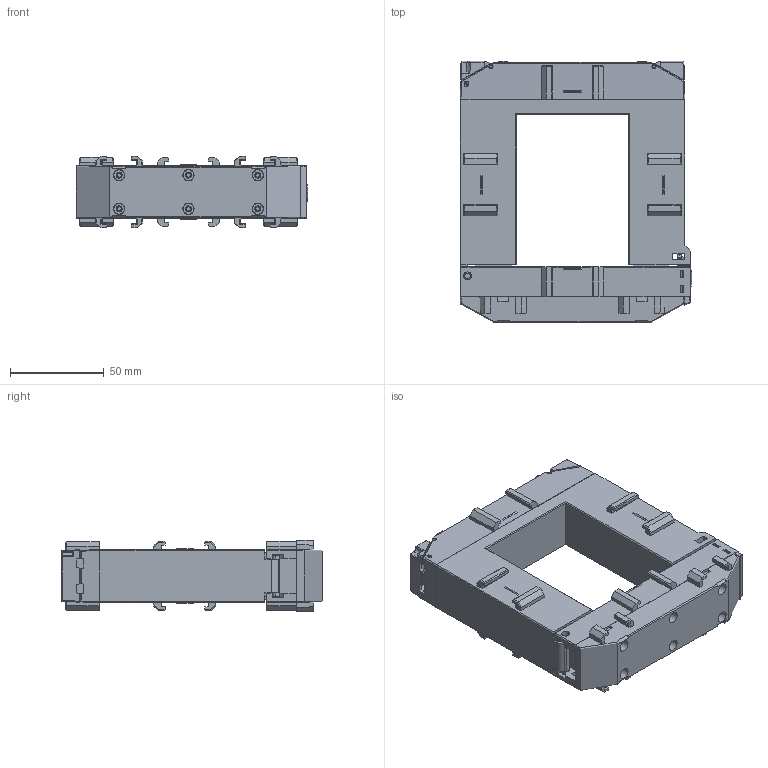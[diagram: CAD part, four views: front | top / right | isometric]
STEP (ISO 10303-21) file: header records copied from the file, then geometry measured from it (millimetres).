
FILE_DESCRIPTION (( 'STEP AP214' ), '1' );
FILE_NAME ('Push 68.STEP', '2023-03-29T15:56:00', ( '' ), ( '' ), 'SwSTEP 2.0', 'SolidWorks 2022', '' );
FILE_SCHEMA (( 'AUTOMOTIVE_DESIGN' ));
Length unit declared in the file: millimetre
Products named in the file (9): CUERPO corto_versio_7_Predeterminado; tapa cristal_versio_6_Predeterminado; CUERPO LARGO_versio_7_Predeterminado; TAPA CUERPO corto_versio_6_Predeterminado; TAPA CUERPO LARGO2_versio_6_Predeterminado; BOTON VERCION 7_Predeterminado; carrete 68_versio_6_Predeterminado; Push 68; TAPETA CUERPO PEQUEÑO_versio_7 prueba_Predeterminado
Assembly tree (10 placements, depth 2):
  Push 68
    CUERPO LARGO_versio_7_Predeterminado
    TAPA CUERPO LARGO2_versio_6_Predeterminado
    CUERPO corto_versio_7_Predeterminado
    TAPA CUERPO corto_versio_6_Predeterminado
    tapa cristal_versio_6_Predeterminado  x2
    TAPETA CUERPO PEQUEÑO_versio_7 prueba_Predeterminado
    BOTON VERCION 7_Predeterminado
    carrete 68_versio_6_Predeterminado  x2
Bounding box: 123.78 x 139.6 x 38.31 mm (x, y, z)
Volume: 125668 mm3; surface area: 135991.1 mm2
Topology: 10 solids, 10 shells, 1995 faces, 5299 edges, 3408 vertices
Faces by surface type: plane 1414, cylinder 333, cone 171, bspline 52, torus 17, sphere 8
Entity records: 57611 total; most frequent: CARTESIAN_POINT 12619, ORIENTED_EDGE 9646, DIRECTION 8781, EDGE_CURVE 4823, LINE 3455, VECTOR 3455, VERTEX_POINT 3112, AXIS2_PLACEMENT_3D 2663
